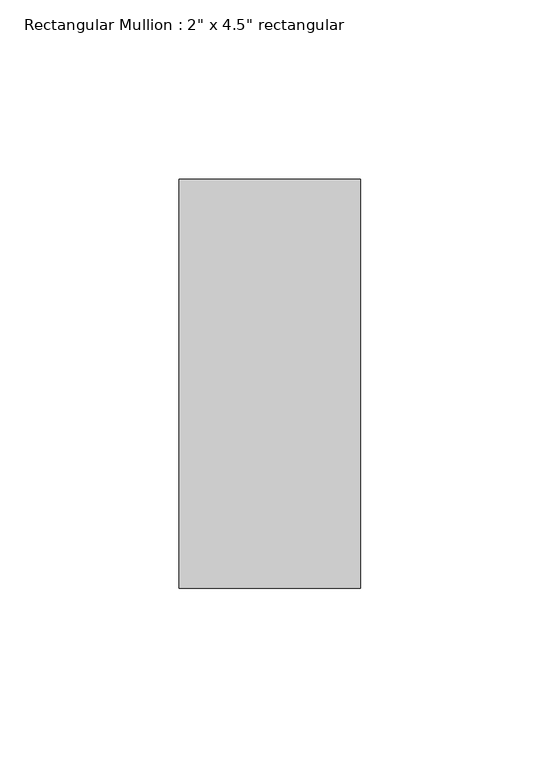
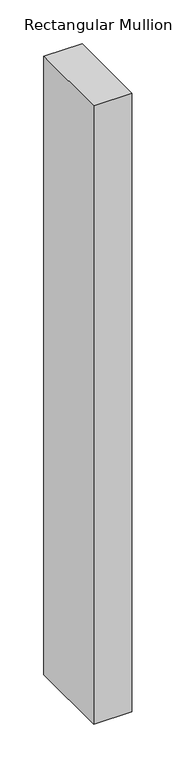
"""IFC4 building model written with IfcOpenShell, lengths in millimetres: member geometry."""

import ifcopenshell
import ifcopenshell.guid

model = None  # the IFC model being written
_history = None  # IfcOwnerHistory: only IFC2X3 demands one
_inside = {}  # id of a spatial element -> (the spatial element, [elements in it])
_under = {}  # id of a project, library or spatial element -> (it, [spatial elements below it])
_declared = {}  # id of a project -> (the project, [libraries it declares])
_typed = {}  # id of a type object -> (the type object, [elements of that type])
_made_of = {}  # id of a material, layer set ... -> (it, [elements and type objects made of it])


def new_model(schema):
    """Start an empty IFC model of exactly this schema.

    Asked for "IFC4X3", IfcOpenShell would pick the latest addendum, in which some entities
    have other attributes; the version numbers below select the first issue.
    IFC2X3 requires an IfcOwnerHistory on every rooted entity: one is made here for all.
    """
    global model, _history
    if schema == "IFC4X3":
        model = ifcopenshell.file(schema_version=(4, 3, 0, 0))
    else:
        model = ifcopenshell.file(schema=schema)
    _inside.clear()
    _under.clear()
    _declared.clear()
    _typed.clear()
    _made_of.clear()
    _history = None
    if model.schema == "IFC2X3":
        org = make("IfcOrganization", Name="unknown")
        user = make(
            "IfcPersonAndOrganization",
            ThePerson=make("IfcPerson", FamilyName="unknown"),
            TheOrganization=org,
        )
        app = make(
            "IfcApplication",
            ApplicationDeveloper=org,
            Version="unknown",
            ApplicationFullName="unknown",
            ApplicationIdentifier="unknown",
        )
        _history = make(
            "IfcOwnerHistory",
            OwningUser=user,
            OwningApplication=app,
            ChangeAction="ADDED",
            CreationDate=0,
        )
    return model


def make(cls, **values):
    """One entity of the class cls with the attributes given. An attribute that is None is left unset."""
    return model.create_entity(
        cls, **{name: value for name, value in values.items() if value is not None}
    )


def rooted(cls, **values):
    """An entity with a GlobalId (a new one), such as an element, a storey or a relation."""
    return make(cls, GlobalId=ifcopenshell.guid.new(), OwnerHistory=_history, **values)


def si_unit(unit_type, name, prefix=None):
    """IfcSIUnit, for example si_unit("LENGTHUNIT", "METRE", prefix="MILLI")."""
    return make("IfcSIUnit", UnitType=unit_type, Prefix=prefix, Name=name)


def assignment(units):
    """IfcUnitAssignment: the units of a project."""
    return None if units is None else make("IfcUnitAssignment", Units=units)


def point(xyz):
    """IfcCartesianPoint."""
    return None if xyz is None else make("IfcCartesianPoint", Coordinates=xyz)


def direction(xyz):
    """IfcDirection."""
    return None if xyz is None else make("IfcDirection", DirectionRatios=xyz)


def frame(location, z_axis=None, x_axis=None):
    """IfcAxis2Placement3D, a coordinate frame: its origin and axes. An axis left out is left unset."""
    return make(
        "IfcAxis2Placement3D",
        Location=point(location),
        Axis=direction(z_axis),
        RefDirection=direction(x_axis),
    )


def origin():
    """The frame at (0, 0, 0) with its axes left unset."""
    return frame((0.0, 0.0, 0.0))


def place(relative_to, where):
    """IfcLocalPlacement: puts the frame where relative to a parent placement (None: the world)."""
    return make(
        "IfcLocalPlacement", PlacementRelTo=relative_to, RelativePlacement=where
    )


def context(
    kind, dimensions, precision=None, world=None, true_north=None, identifier=None
):
    """IfcGeometricRepresentationContext, for example the 3D "Model" context."""
    return make(
        "IfcGeometricRepresentationContext",
        ContextIdentifier=identifier,
        ContextType=kind,
        CoordinateSpaceDimension=dimensions,
        Precision=precision,
        WorldCoordinateSystem=world,
        TrueNorth=true_north,
    )


def project(units=None, contexts=None):
    """IfcProject with its units and contexts."""
    return rooted(
        "IfcProject",
        Name="project",
        RepresentationContexts=contexts,
        UnitsInContext=assignment(units),
    )


def spatial(cls, under=None, at=None, **own):
    """A site, building, storey or space (cls), placed at a placement, below another one or the project."""
    s = rooted(cls, ObjectPlacement=at, **own)
    if under is not None:
        _under.setdefault(under.id(), (under, []))[1].append(s)
    return s


def polyline(points):
    """IfcPolyline through the points."""
    return make("IfcPolyline", Points=[point(p) for p in points])


def outline(outer, holes=None, kind="AREA"):
    """IfcArbitraryClosedProfileDef: a profile drawn as a closed curve; with holes, ...WithVoids."""
    if holes is None:
        return make("IfcArbitraryClosedProfileDef", ProfileType=kind, OuterCurve=outer)
    return make(
        "IfcArbitraryProfileDefWithVoids",
        ProfileType=kind,
        OuterCurve=outer,
        InnerCurves=holes,
    )


def extrude(swept, where, along, depth):
    """IfcExtrudedAreaSolid: the profile swept, set in the frame where, extruded along a direction by depth."""
    return make(
        "IfcExtrudedAreaSolid",
        SweptArea=swept,
        Position=where,
        ExtrudedDirection=direction(along),
        Depth=depth,
    )


def shape(context_of_items, identifier, shape_type, items):
    """IfcShapeRepresentation: the items that make up one representation, for example the "Body"."""
    return make(
        "IfcShapeRepresentation",
        ContextOfItems=context_of_items,
        RepresentationIdentifier=identifier,
        RepresentationType=shape_type,
        Items=items,
    )


def source(mapping_origin, context_of_items, identifier, shape_type, items):
    """IfcRepresentationMap: a shape defined once, which mapped items show again and again."""
    return make(
        "IfcRepresentationMap",
        MappingOrigin=mapping_origin,
        MappedRepresentation=shape(context_of_items, identifier, shape_type, items),
    )


def transform(
    local_origin,
    x_axis=None,
    y_axis=None,
    z_axis=None,
    scale=None,
    scale2=None,
    scale3=None,
    uniform=True,
):
    """IfcCartesianTransformationOperator3D, or its non-uniform kind. x_axis, y_axis, z_axis: its Axis1, 2, 3."""
    if uniform:
        return make(
            "IfcCartesianTransformationOperator3D",
            Axis1=direction(x_axis),
            Axis2=direction(y_axis),
            LocalOrigin=point(local_origin),
            Scale=scale,
            Axis3=direction(z_axis),
        )
    return make(
        "IfcCartesianTransformationOperator3DnonUniform",
        Axis1=direction(x_axis),
        Axis2=direction(y_axis),
        LocalOrigin=point(local_origin),
        Scale=scale,
        Axis3=direction(z_axis),
        Scale2=scale2,
        Scale3=scale3,
    )


def mapped(mapping_source, mapping_target):
    """IfcMappedItem: shows the shape of a source again, moved by a transform."""
    return make(
        "IfcMappedItem", MappingSource=mapping_source, MappingTarget=mapping_target
    )


def made_of(thing, what):
    """Note that an element or type object is made of a material, layer set ...; save() writes the relation."""
    if what is not None:
        _made_of.setdefault(what.id(), (what, []))[1].append(thing)
    return thing


def element(
    cls,
    number,
    at=None,
    inside=None,
    cuts=None,
    type_object=None,
    material=None,
    context=None,
    identifier="Body",
    shape_type=None,
    held_by="IfcProductDefinitionShape",
    body=None,
    shapes=None,
    **own,
):
    """One element of the class cls, such as IfcWall. Its Tag is "e" and its number.

    at: its placement. inside: the storey or other place that contains it. cuts: it is an
    opening in that element (IfcRelVoidsElement). A single representation is given by context,
    identifier, shape_type and body (its items); several are given by shapes. held_by: the class
    of the entity that holds the representations. save() writes the other relations.
    """
    e = rooted(cls, Tag="e%d" % number, ObjectPlacement=at, **own)
    if body is not None:
        shapes = [shape(context, identifier, shape_type, body)]
    if shapes is not None:
        e.Representation = make(held_by, Representations=shapes)
    if inside is not None:
        _inside.setdefault(inside.id(), (inside, []))[1].append(e)
    if cuts is not None:
        rooted(
            "IfcRelVoidsElement", RelatingBuildingElement=cuts, RelatedOpeningElement=e
        )
    if type_object is not None:
        _typed.setdefault(type_object.id(), (type_object, []))[1].append(e)
    return made_of(e, material)


def aggregate(whole, parts):
    """IfcRelAggregates: a whole, such as a stair, and the parts it consists of."""
    return rooted("IfcRelAggregates", RelatingObject=whole, RelatedObjects=parts)


def save(model, path):
    """Write the relations noted so far, then the file.

    IfcRelAggregates (storeys below a building ...), IfcRelContainedInSpatialStructure (elements
    in a storey), IfcRelDefinesByType, IfcRelAssociatesMaterial and IfcRelDeclares: one each for
    every whole, place, type object, material and project.
    """
    for whole, parts in _under.values():
        aggregate(whole, parts)
    for where, things in _inside.values():
        rooted(
            "IfcRelContainedInSpatialStructure",
            RelatedElements=things,
            RelatingStructure=where,
        )
    for kind, things in _typed.values():
        rooted("IfcRelDefinesByType", RelatedObjects=things, RelatingType=kind)
    for what, things in _made_of.values():
        rooted("IfcRelAssociatesMaterial", RelatedObjects=things, RelatingMaterial=what)
    for by, libraries in _declared.values():
        rooted("IfcRelDeclares", RelatingContext=by, RelatedDefinitions=libraries)
    model.write(path)


def member_35eb671e(model_context):
    return source(origin(), model_context, "Body", "SweptSolid", [
        extrude(outline(polyline([(0.0, 57.15), (0.0, -57.15), (-50.8, -57.15), (-50.8, 57.15), (0.0, 57.15)])), frame((0.0, 0.0, -864.4249954), z_axis=(0.0, 0.0, 1.0), x_axis=(1.0, 0.0, 0.0)), (0.0, 0.0, 1.0), 864.4249954),
    ])


if __name__ == "__main__":
    model = new_model("IFC4")
    model_context = context("Model", 3, world=origin())
    ifc_project = project(units=[si_unit("LENGTHUNIT", "METRE", prefix="MILLI")], contexts=[model_context])
    site = spatial("IfcSite", under=ifc_project)
    building = spatial("IfcBuilding", under=site)
    placement = place(None, origin())
    member_shape = member_35eb671e(model_context)
    element("IfcMember", 1, ObjectType="Rectangular Mullion : 2\" x 4.5\" rectangular", at=placement, inside=building, context=model_context, shape_type="MappedRepresentation", body=[
        mapped(member_shape, transform((0.0, 0.0, 0.0), x_axis=(1.0, 0.0, 0.0), y_axis=(0.0, 1.0, 0.0), z_axis=(0.0, 0.0, 1.0))),
    ])
    save(model, "model.ifc")
